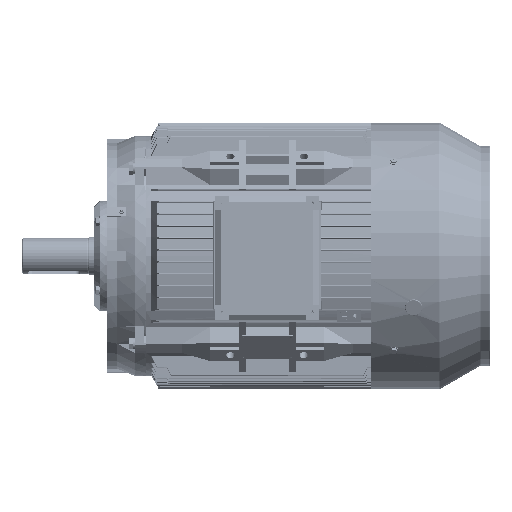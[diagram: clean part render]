
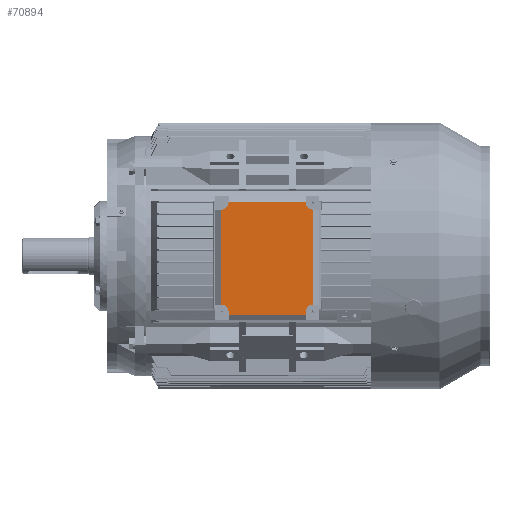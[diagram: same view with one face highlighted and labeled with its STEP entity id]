
A CAD part, top view. The second image highlights one B-rep face of the part: STEP entity #70894.
In plain terms, the highlighted planar face has unit normal (0, 0, 1).
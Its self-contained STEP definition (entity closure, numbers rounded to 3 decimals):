
#1423 = LINE ( 'NONE', #193166, #235512 ) ;
#5003 = ORIENTED_EDGE ( 'NONE', *, *, #160063, .T. ) ;
#5688 = VECTOR ( 'NONE', #68204, 1000. ) ;
#6199 = VECTOR ( 'NONE', #173454, 1000. ) ;
#9820 = CARTESIAN_POINT ( 'NONE',  ( -24.908, -119.013, 386.917 ) ) ;
#12921 = CARTESIAN_POINT ( 'NONE',  ( -40.908, 100.987, 386.917 ) ) ;
#14271 = VERTEX_POINT ( 'NONE', #84572 ) ;
#22372 = LINE ( 'NONE', #77673, #279793 ) ;
#26168 = ORIENTED_EDGE ( 'NONE', *, *, #224883, .F. ) ;
#28805 = VERTEX_POINT ( 'NONE', #12921 ) ;
#29617 = CARTESIAN_POINT ( 'NONE',  ( -24.908, 115.987, 386.917 ) ) ;
#29658 = DIRECTION ( 'NONE',  ( 0., 0., 1. ) ) ;
#31246 = ORIENTED_EDGE ( 'NONE', *, *, #117252, .T. ) ;
#43945 = EDGE_CURVE ( 'NONE', #49983, #195232, #237062, .T. ) ;
#44694 = ORIENTED_EDGE ( 'NONE', *, *, #137102, .F. ) ;
#45214 = CARTESIAN_POINT ( 'NONE',  ( 137.092, -119.013, 386.917 ) ) ;
#49983 = VERTEX_POINT ( 'NONE', #339396 ) ;
#52381 = ORIENTED_EDGE ( 'NONE', *, *, #263988, .T. ) ;
#59531 = VERTEX_POINT ( 'NONE', #29617 ) ;
#62621 = VECTOR ( 'NONE', #331775, 1000. ) ;
#66126 = DIRECTION ( 'NONE',  ( 1., 0., 0. ) ) ;
#68204 = DIRECTION ( 'NONE',  ( -1., 0., 0. ) ) ;
#69098 = CIRCLE ( 'NONE', #145689, 15. ) ;
#70139 = EDGE_CURVE ( 'NONE', #14271, #334072, #154490, .T. ) ;
#70530 = EDGE_CURVE ( 'NONE', #241187, #59531, #69098, .T. ) ;
#70894 = ADVANCED_FACE ( 'NONE', ( #212144 ), #73840, .T. ) ;
#73728 = EDGE_CURVE ( 'NONE', #195232, #342516, #208284, .T. ) ;
#73840 = PLANE ( 'NONE',  #328631 ) ;
#73977 = VECTOR ( 'NONE', #281749, 1000. ) ;
#74096 = DIRECTION ( 'NONE',  ( -1., 0., 0. ) ) ;
#74752 = EDGE_CURVE ( 'NONE', #211806, #199558, #121751, .T. ) ;
#76105 = DIRECTION ( 'NONE',  ( 0., 1., 0. ) ) ;
#77673 = CARTESIAN_POINT ( 'NONE',  ( -52.908, 100.987, 386.917 ) ) ;
#84572 = CARTESIAN_POINT ( 'NONE',  ( 152.092, 100.987, 386.917 ) ) ;
#89501 = CARTESIAN_POINT ( 'NONE',  ( 137.092, 116.987, 386.917 ) ) ;
#89961 = VERTEX_POINT ( 'NONE', #9820 ) ;
#96170 = ORIENTED_EDGE ( 'NONE', *, *, #185269, .F. ) ;
#99311 = DIRECTION ( 'NONE',  ( 0., 0., 1. ) ) ;
#100664 = CARTESIAN_POINT ( 'NONE',  ( 137.092, 115.987, 386.917 ) ) ;
#101183 = LINE ( 'NONE', #169227, #73977 ) ;
#103877 = EDGE_CURVE ( 'NONE', #89961, #49983, #163969, .T. ) ;
#106152 = CARTESIAN_POINT ( 'NONE',  ( 153.092, 100.987, 386.917 ) ) ;
#108696 = CARTESIAN_POINT ( 'NONE',  ( 152.092, -98.013, 386.917 ) ) ;
#109976 = CARTESIAN_POINT ( 'NONE',  ( 153.092, -98.013, 386.917 ) ) ;
#112065 = LINE ( 'NONE', #224509, #257374 ) ;
#117252 = EDGE_CURVE ( 'NONE', #196481, #334072, #112065, .T. ) ;
#121543 = DIRECTION ( 'NONE',  ( 0., 1., 0. ) ) ;
#121751 = LINE ( 'NONE', #319074, #6199 ) ;
#125044 = CARTESIAN_POINT ( 'NONE',  ( 165.092, 100.987, 386.917 ) ) ;
#126187 = CARTESIAN_POINT ( 'NONE',  ( 137.092, -119.013, 386.917 ) ) ;
#127348 = DIRECTION ( 'NONE',  ( 0., 0., 1. ) ) ;
#129466 = ORIENTED_EDGE ( 'NONE', *, *, #74752, .F. ) ;
#136317 = CARTESIAN_POINT ( 'NONE',  ( -24.908, -131.013, 386.917 ) ) ;
#137102 = EDGE_CURVE ( 'NONE', #59531, #349424, #267575, .T. ) ;
#138303 = VECTOR ( 'NONE', #74096, 1000. ) ;
#140535 = ORIENTED_EDGE ( 'NONE', *, *, #103877, .F. ) ;
#142321 = ORIENTED_EDGE ( 'NONE', *, *, #43945, .F. ) ;
#145689 = AXIS2_PLACEMENT_3D ( 'NONE', #155398, #323278, #76105 ) ;
#148255 = ORIENTED_EDGE ( 'NONE', *, *, #221654, .T. ) ;
#154490 = LINE ( 'NONE', #125044, #322048 ) ;
#154807 = ORIENTED_EDGE ( 'NONE', *, *, #336819, .F. ) ;
#155398 = CARTESIAN_POINT ( 'NONE',  ( -39.908, 115.987, 386.917 ) ) ;
#158618 = DIRECTION ( 'NONE',  ( 0., -1., 0. ) ) ;
#160063 = EDGE_CURVE ( 'NONE', #28805, #342516, #320174, .T. ) ;
#160065 = VERTEX_POINT ( 'NONE', #100664 ) ;
#161476 = DIRECTION ( 'NONE',  ( 0., 1., 0. ) ) ;
#163749 = ORIENTED_EDGE ( 'NONE', *, *, #70530, .F. ) ;
#163969 = LINE ( 'NONE', #136317, #62621 ) ;
#167509 = CARTESIAN_POINT ( 'NONE',  ( -39.908, 100.987, 386.917 ) ) ;
#169227 = CARTESIAN_POINT ( 'NONE',  ( 137.092, 128.987, 386.917 ) ) ;
#171534 = DIRECTION ( 'NONE',  ( 0., 1., 0. ) ) ;
#173454 = DIRECTION ( 'NONE',  ( 0., -1., 0. ) ) ;
#182923 = CARTESIAN_POINT ( 'NONE',  ( 165.092, -98.013, 386.917 ) ) ;
#185269 = EDGE_CURVE ( 'NONE', #196481, #251992, #321274, .T. ) ;
#193166 = CARTESIAN_POINT ( 'NONE',  ( -24.908, 116.987, 386.917 ) ) ;
#193834 = AXIS2_PLACEMENT_3D ( 'NONE', #232226, #99311, #121543 ) ;
#195232 = VERTEX_POINT ( 'NONE', #279513 ) ;
#195364 = VERTEX_POINT ( 'NONE', #89501 ) ;
#196481 = VERTEX_POINT ( 'NONE', #109976 ) ;
#198490 = EDGE_CURVE ( 'NONE', #160065, #14271, #198892, .T. ) ;
#198600 = ORIENTED_EDGE ( 'NONE', *, *, #326639, .F. ) ;
#198892 = CIRCLE ( 'NONE', #281303, 15. ) ;
#199558 = VERTEX_POINT ( 'NONE', #126187 ) ;
#199600 = CIRCLE ( 'NONE', #193834, 15. ) ;
#208284 = LINE ( 'NONE', #320802, #5688 ) ;
#211806 = VERTEX_POINT ( 'NONE', #258468 ) ;
#212144 = FACE_OUTER_BOUND ( 'NONE', #311656, .T. ) ;
#215958 = DIRECTION ( 'NONE',  ( 1., 0., 0. ) ) ;
#221654 = EDGE_CURVE ( 'NONE', #89961, #199558, #358557, .T. ) ;
#224509 = CARTESIAN_POINT ( 'NONE',  ( 153.092, 100.987, 386.917 ) ) ;
#224883 = EDGE_CURVE ( 'NONE', #251992, #211806, #199600, .T. ) ;
#232226 = CARTESIAN_POINT ( 'NONE',  ( 152.092, -113.013, 386.917 ) ) ;
#235512 = VECTOR ( 'NONE', #312920, 1000. ) ;
#237062 = CIRCLE ( 'NONE', #331314, 15. ) ;
#239932 = CARTESIAN_POINT ( 'NONE',  ( -24.908, 128.987, 386.917 ) ) ;
#241187 = VERTEX_POINT ( 'NONE', #167509 ) ;
#241376 = VECTOR ( 'NONE', #325632, 1000. ) ;
#243493 = CARTESIAN_POINT ( 'NONE',  ( -40.908, -98.013, 386.917 ) ) ;
#251992 = VERTEX_POINT ( 'NONE', #108696 ) ;
#256395 = CARTESIAN_POINT ( 'NONE',  ( 152.092, 115.987, 386.917 ) ) ;
#257374 = VECTOR ( 'NONE', #337009, 1000. ) ;
#258468 = CARTESIAN_POINT ( 'NONE',  ( 137.092, -113.013, 386.917 ) ) ;
#263988 = EDGE_CURVE ( 'NONE', #195364, #349424, #1423, .T. ) ;
#266489 = DIRECTION ( 'NONE',  ( 1., 0., 0. ) ) ;
#267084 = ORIENTED_EDGE ( 'NONE', *, *, #198490, .F. ) ;
#267575 = LINE ( 'NONE', #239932, #325232 ) ;
#269407 = DIRECTION ( 'NONE',  ( 0., 1., 0. ) ) ;
#279513 = CARTESIAN_POINT ( 'NONE',  ( -39.908, -98.013, 386.917 ) ) ;
#279793 = VECTOR ( 'NONE', #215958, 1000. ) ;
#281303 = AXIS2_PLACEMENT_3D ( 'NONE', #256395, #29658, #171534 ) ;
#281749 = DIRECTION ( 'NONE',  ( 0., -1., 0. ) ) ;
#290676 = CARTESIAN_POINT ( 'NONE',  ( -40.908, -98.013, 386.917 ) ) ;
#295176 = CARTESIAN_POINT ( 'NONE',  ( -52.908, 128.987, 386.917 ) ) ;
#301678 = DIRECTION ( 'NONE',  ( 0., 0., 1. ) ) ;
#309708 = VECTOR ( 'NONE', #266489, 1000. ) ;
#311656 = EDGE_LOOP ( 'NONE', ( #96170, #31246, #321957, #267084, #154807, #52381, #44694, #163749, #198600, #5003, #347380, #142321, #140535, #148255, #129466, #26168 ) ) ;
#312920 = DIRECTION ( 'NONE',  ( -1., 0., 0. ) ) ;
#319074 = CARTESIAN_POINT ( 'NONE',  ( 137.092, -131.013, 386.917 ) ) ;
#320174 = LINE ( 'NONE', #290676, #241376 ) ;
#320802 = CARTESIAN_POINT ( 'NONE',  ( -52.908, -98.013, 386.917 ) ) ;
#321274 = LINE ( 'NONE', #182923, #138303 ) ;
#321957 = ORIENTED_EDGE ( 'NONE', *, *, #70139, .F. ) ;
#322048 = VECTOR ( 'NONE', #66126, 1000. ) ;
#323278 = DIRECTION ( 'NONE',  ( 0., 0., 1. ) ) ;
#325232 = VECTOR ( 'NONE', #269407, 1000. ) ;
#325632 = DIRECTION ( 'NONE',  ( 0., -1., 0. ) ) ;
#326639 = EDGE_CURVE ( 'NONE', #28805, #241187, #22372, .T. ) ;
#327094 = CARTESIAN_POINT ( 'NONE',  ( -24.908, 116.987, 386.917 ) ) ;
#328631 = AXIS2_PLACEMENT_3D ( 'NONE', #295176, #127348, #158618 ) ;
#331147 = CARTESIAN_POINT ( 'NONE',  ( -39.908, -113.013, 386.917 ) ) ;
#331314 = AXIS2_PLACEMENT_3D ( 'NONE', #331147, #301678, #161476 ) ;
#331775 = DIRECTION ( 'NONE',  ( 0., 1., 0. ) ) ;
#334072 = VERTEX_POINT ( 'NONE', #106152 ) ;
#336819 = EDGE_CURVE ( 'NONE', #195364, #160065, #101183, .T. ) ;
#337009 = DIRECTION ( 'NONE',  ( 0., 1., 0. ) ) ;
#339396 = CARTESIAN_POINT ( 'NONE',  ( -24.908, -113.013, 386.917 ) ) ;
#342516 = VERTEX_POINT ( 'NONE', #243493 ) ;
#347380 = ORIENTED_EDGE ( 'NONE', *, *, #73728, .F. ) ;
#349424 = VERTEX_POINT ( 'NONE', #327094 ) ;
#358557 = LINE ( 'NONE', #45214, #309708 ) ;
